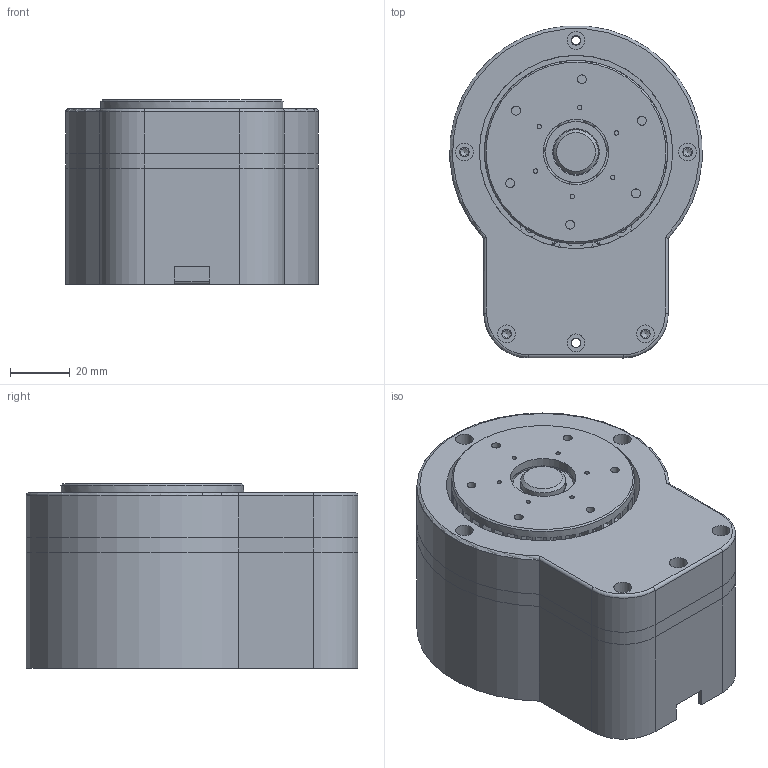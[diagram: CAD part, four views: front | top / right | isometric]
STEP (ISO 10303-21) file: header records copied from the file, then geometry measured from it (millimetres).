
FILE_DESCRIPTION(/* description */ (''),/* implementation_level */ '2;1');
FILE_NAME(/* name */ 'base_rotante_ingranaggi_dritti2.stp',/* time_stamp */ '2025-09-09T11:32:42+02:00',/* author */ ('R5800u'),/* organization */ (''),/* preprocessor_version */ 'ST-DEVELOPER v20',/* originating_system */ 'Autodesk Inventor 2025',/* authorisation */ '');
FILE_SCHEMA (('AUTOMOTIVE_DESIGN { 1 0 10303 214 3 1 1 }'));
Products named in the file (20): base_rotante_ingranaggi_dritti2; Nema17; Bottom_cap; Protective_film_bottom; Bearing_spring; Thick_washer; Rotor; Thick_washer_Thick; Bearing; Stator; Top_cap; Screw; SKF6002; Ingranaggi cilindrici; Ingranaggio cilindrico1; Ingranaggio cilindrico2; case; supporto_full; AS 1420 - 1973 - M3 x 6; top_cap2
Assembly tree (26 placements, depth 3):
  base_rotante_ingranaggi_dritti2
    Nema17
      Bottom_cap
      Protective_film_bottom
      Bearing_spring
      Bearing  x2
      Thick_washer
      Rotor
      Thick_washer_Thick
      Stator
      Top_cap
      Screw  x4
    SKF6002
    Ingranaggi cilindrici
      Ingranaggio cilindrico1
      Ingranaggio cilindrico2
    case
    supporto_full
    AS 1420 - 1973 - M3 x 6  x4
    top_cap2
Bounding box: 84.82 x 111.46 x 62 mm (x, y, z)
Volume: 186248.8 mm3; surface area: 121172.7 mm2
Topology: 60 solids, 60 shells, 2463 faces, 5817 edges, 3473 vertices
Faces by surface type: cylinder 984, torus 671, plane 441, bspline 246, sphere 71, cone 50
Full cylindrical faces by diameter (mm): 1.5 x6, 2.5 x2, 3 x33, 3.2 x12, 5 x6, 5.5 x4, 6 x12, 7.5 x2, 9 x6, 11 x1, 12 x2, 13 x4, 14 x1, 15 x3, 16 x4, 20.44 x2, 22 x2, 23 x1, 24 x1, 25 x1, 26 x2, 26.5 x1, 26.56 x2, 32 x2, 61.5 x1, 65 x1
Entity records: 68247 total; most frequent: CARTESIAN_POINT 17454, DIRECTION 11972, ORIENTED_EDGE 9814, AXIS2_PLACEMENT_3D 5231, EDGE_CURVE 4907, CIRCLE 3152, VERTEX_POINT 2966, EDGE_LOOP 2241
